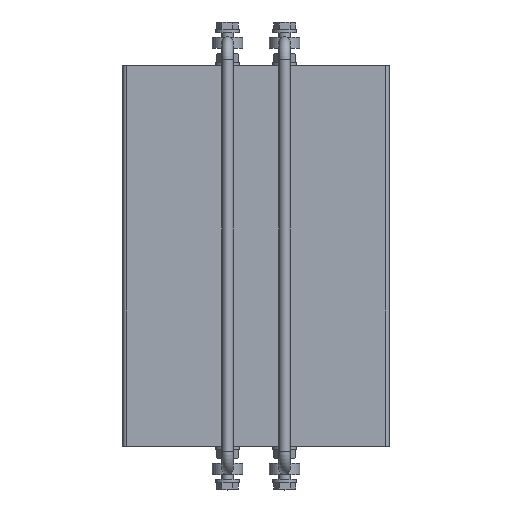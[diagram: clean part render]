
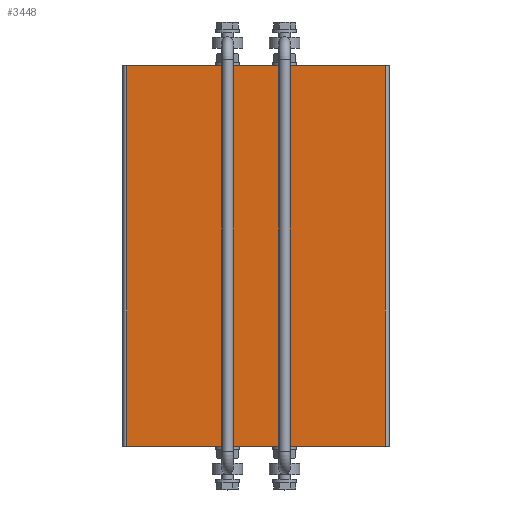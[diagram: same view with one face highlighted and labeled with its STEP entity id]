
A CAD part, top view. The second image highlights one B-rep face of the part: STEP entity #3448.
In plain terms, the highlighted planar face has unit normal (0, 0, 1).
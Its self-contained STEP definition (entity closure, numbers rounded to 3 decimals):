
#278=PLANE('',#4051);
#448=LINE('',#6304,#628);
#453=LINE('',#6319,#633);
#458=LINE('',#6332,#638);
#459=LINE('',#6335,#639);
#628=VECTOR('',#5071,10.);
#633=VECTOR('',#5086,10.);
#638=VECTOR('',#5099,10.);
#639=VECTOR('',#5104,10.);
#916=FACE_OUTER_BOUND('',#1164,.T.);
#1164=EDGE_LOOP('',(#3155,#3156,#3157,#3158));
#1746=VERTEX_POINT('',#6301);
#1747=VERTEX_POINT('',#6303);
#1752=VERTEX_POINT('',#6317);
#1756=VERTEX_POINT('',#6331);
#2211=EDGE_CURVE('',#1747,#1746,#448,.T.);
#2219=EDGE_CURVE('',#1752,#1746,#453,.T.);
#2225=EDGE_CURVE('',#1747,#1756,#458,.T.);
#2227=EDGE_CURVE('',#1752,#1756,#459,.T.);
#3155=ORIENTED_EDGE('',*,*,#2219,.F.);
#3156=ORIENTED_EDGE('',*,*,#2227,.T.);
#3157=ORIENTED_EDGE('',*,*,#2225,.F.);
#3158=ORIENTED_EDGE('',*,*,#2211,.T.);
#3448=ADVANCED_FACE('',(#916),#278,.T.);
#4051=AXIS2_PLACEMENT_3D('',#6334,#5102,#5103);
#5071=DIRECTION('',(1.,0.,0.));
#5086=DIRECTION('',(0.,-1.,0.));
#5099=DIRECTION('',(0.,1.,0.));
#5102=DIRECTION('center_axis',(0.,0.,1.));
#5103=DIRECTION('ref_axis',(1.,0.,0.));
#5104=DIRECTION('',(-1.,0.,0.));
#6301=CARTESIAN_POINT('',(68.,-100.,40.));
#6303=CARTESIAN_POINT('',(-68.,-100.,40.));
#6304=CARTESIAN_POINT('',(-70.,-100.,40.));
#6317=CARTESIAN_POINT('',(68.,100.,40.));
#6319=CARTESIAN_POINT('',(68.,-50.,40.));
#6331=CARTESIAN_POINT('',(-68.,100.,40.));
#6332=CARTESIAN_POINT('',(-68.,50.,40.));
#6334=CARTESIAN_POINT('Origin',(0.,0.,40.));
#6335=CARTESIAN_POINT('',(70.,100.,40.));
